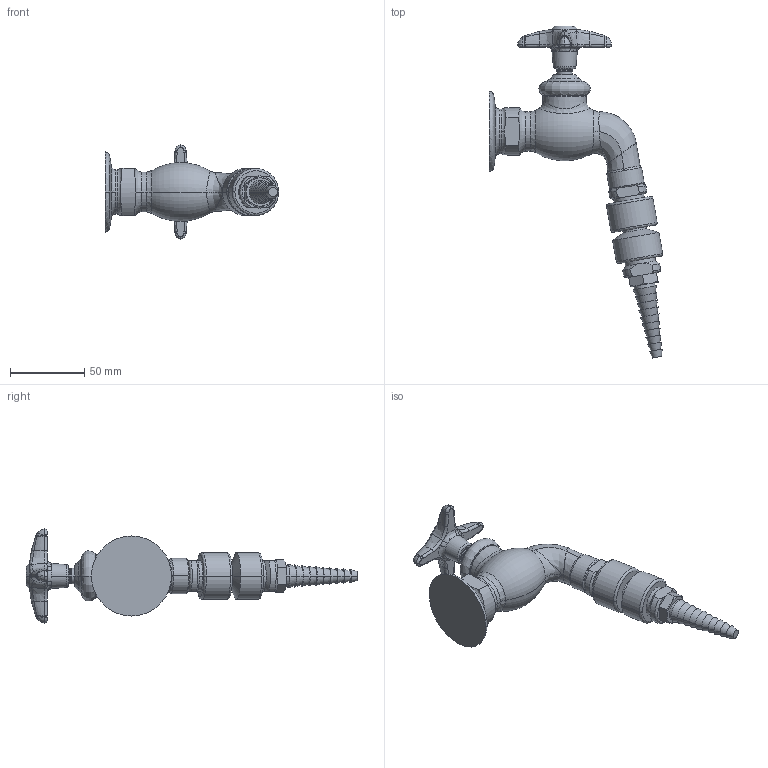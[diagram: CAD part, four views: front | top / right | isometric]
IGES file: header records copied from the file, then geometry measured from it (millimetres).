
Start section:  PTC IGES file: LWV3-C41.igs
Global section: file name: LWV3-C41.igs; native system: Creo Parametric by PTC Inc.; preprocessor: 2014500; author: usch_engrender; organization: Unknown; date: 20150910.122324; units: inch
Bounding box: 116.95 x 223.95 x 63.42 mm (x, y, z)
Volume: 164836.8 mm3; surface area: 32309.2 mm2
Topology: 1 solids, 2 shells, 320 faces, 710 edges, 413 vertices
Faces by surface type: bspline 196, revolution 124
